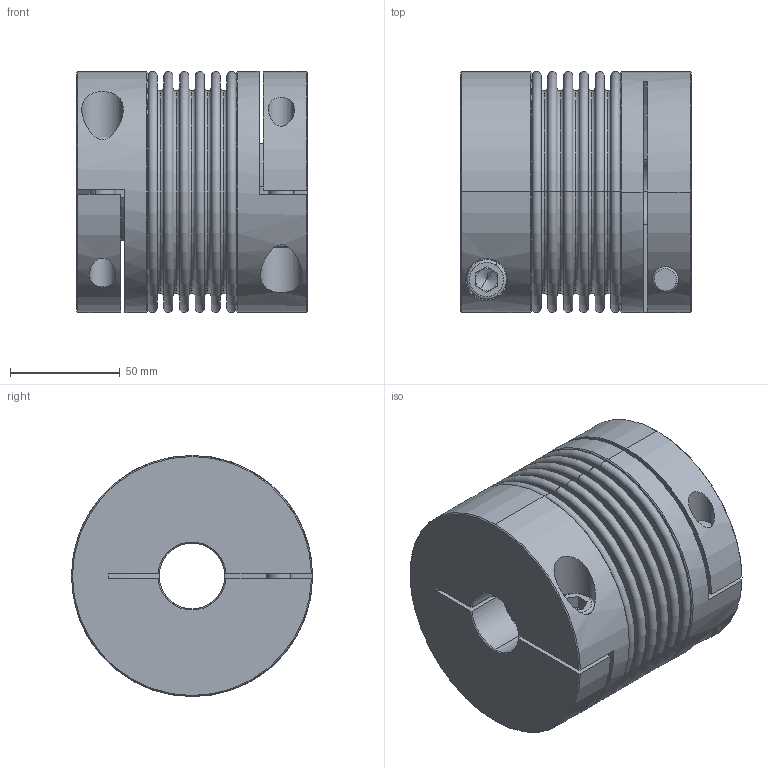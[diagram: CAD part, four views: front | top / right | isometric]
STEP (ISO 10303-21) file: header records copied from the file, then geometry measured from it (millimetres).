
FILE_DESCRIPTION (( 'STEP AP214' ), '1' );
FILE_NAME ('KB4C-300-105.STEP', '2011-01-19T18:03:51', ( '' ), ( 'KAPCAD' ), 'SwSTEP 2.0', 'SolidWorks 2002296', '' );
FILE_SCHEMA (( 'AUTOMOTIVE_DESIGN' ));
Length unit declared in the file: millimetre
Products named in the file (4): KB4C-300-105; KN300C_Standard; BL300_Standard; Socket Head Cap Screw_DIN_DIN 912 M12 x 40 --- 40N
Assembly tree (5 placements, depth 2):
  KB4C-300-105
    KN300C_Standard  x2
    Socket Head Cap Screw_DIN_DIN 912 M12 x 40 --- 40N  x2
    BL300_Standard
Bounding box: 105.2 x 110 x 110 mm (x, y, z)
Volume: 566644.9 mm3; surface area: 180593 mm2
Topology: 5 solids, 5 shells, 214 faces, 476 edges, 296 vertices
Faces by surface type: plane 74, torus 72, cylinder 44, cone 24
Entity records: 4661 total; most frequent: CARTESIAN_POINT 913, DIRECTION 902, ORIENTED_EDGE 668, AXIS2_PLACEMENT_3D 415, EDGE_CURVE 334, CIRCLE 251, VERTEX_POINT 210, EDGE_LOOP 190
